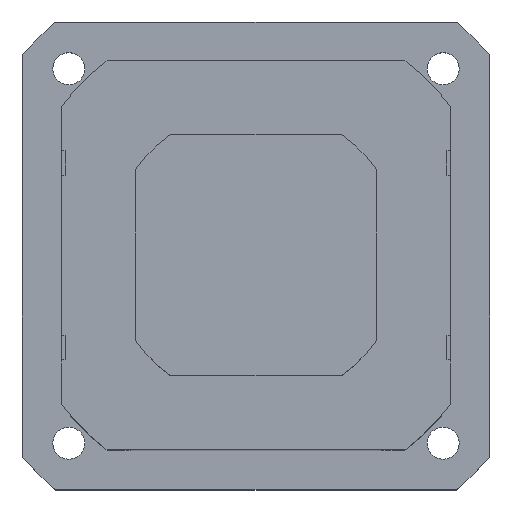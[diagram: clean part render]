
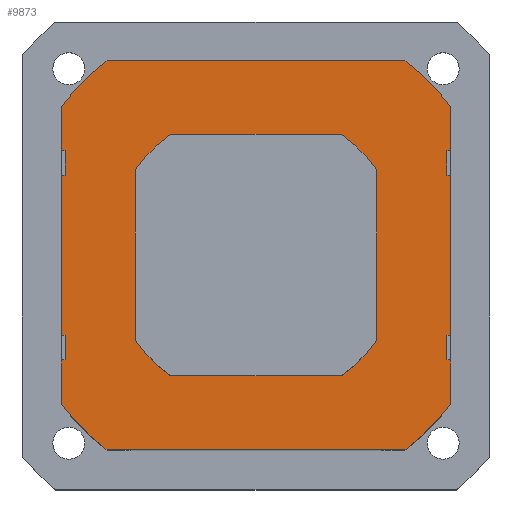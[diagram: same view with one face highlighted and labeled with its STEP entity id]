
A CAD part, top view. The second image highlights one B-rep face of the part: STEP entity #9873.
In plain terms, the highlighted planar face has unit normal (0, 0, 1).
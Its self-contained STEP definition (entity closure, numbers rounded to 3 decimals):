
#2748=CIRCLE('',#10826,99.5);
#2749=CIRCLE('',#10827,99.5);
#2750=CIRCLE('',#10828,99.5);
#2751=CIRCLE('',#10829,99.5);
#3254=VERTEX_POINT('',#14131);
#3255=VERTEX_POINT('',#14132);
#3256=VERTEX_POINT('',#14134);
#3257=VERTEX_POINT('',#14136);
#3258=VERTEX_POINT('',#14138);
#3259=VERTEX_POINT('',#14140);
#3260=VERTEX_POINT('',#14142);
#3261=VERTEX_POINT('',#14144);
#3262=VERTEX_POINT('',#14146);
#3263=VERTEX_POINT('',#14148);
#3264=VERTEX_POINT('',#14150);
#3265=VERTEX_POINT('',#14152);
#3266=VERTEX_POINT('',#14154);
#3267=VERTEX_POINT('',#14156);
#3268=VERTEX_POINT('',#14158);
#3269=VERTEX_POINT('',#14160);
#3270=VERTEX_POINT('',#14162);
#3271=VERTEX_POINT('',#14164);
#3272=VERTEX_POINT('',#14166);
#3273=VERTEX_POINT('',#14168);
#3274=VERTEX_POINT('',#14170);
#3275=VERTEX_POINT('',#14172);
#3276=VERTEX_POINT('',#14174);
#3277=VERTEX_POINT('',#14176);
#4168=LINE('',#14130,#11856);
#4169=LINE('',#14135,#11857);
#4170=LINE('',#14137,#11858);
#4171=LINE('',#14139,#11859);
#4172=LINE('',#14141,#11860);
#4173=LINE('',#14143,#11861);
#4174=LINE('',#14145,#11862);
#4175=LINE('',#14147,#11863);
#4176=LINE('',#14149,#11864);
#4177=LINE('',#14151,#11865);
#4178=LINE('',#14155,#11866);
#4179=LINE('',#14159,#11867);
#4180=LINE('',#14161,#11868);
#4181=LINE('',#14163,#11869);
#4182=LINE('',#14165,#11870);
#4183=LINE('',#14167,#11871);
#4184=LINE('',#14169,#11872);
#4185=LINE('',#14171,#11873);
#4186=LINE('',#14173,#11874);
#4187=LINE('',#14175,#11875);
#5017=EDGE_CURVE('',#3254,#3255,#4168,.T.);
#5018=EDGE_CURVE('',#3256,#3254,#2748,.T.);
#5019=EDGE_CURVE('',#3257,#3256,#4169,.T.);
#5020=EDGE_CURVE('',#3258,#3257,#4170,.T.);
#5021=EDGE_CURVE('',#3259,#3258,#4171,.T.);
#5022=EDGE_CURVE('',#3260,#3259,#4172,.T.);
#5023=EDGE_CURVE('',#3261,#3260,#4173,.T.);
#5024=EDGE_CURVE('',#3262,#3261,#4174,.T.);
#5025=EDGE_CURVE('',#3263,#3262,#4175,.T.);
#5026=EDGE_CURVE('',#3264,#3263,#4176,.T.);
#5027=EDGE_CURVE('',#3265,#3264,#4177,.T.);
#5028=EDGE_CURVE('',#3266,#3265,#2749,.T.);
#5029=EDGE_CURVE('',#3267,#3266,#4178,.T.);
#5030=EDGE_CURVE('',#3268,#3267,#2750,.T.);
#5031=EDGE_CURVE('',#3269,#3268,#4179,.T.);
#5032=EDGE_CURVE('',#3270,#3269,#4180,.T.);
#5033=EDGE_CURVE('',#3271,#3270,#4181,.T.);
#5034=EDGE_CURVE('',#3272,#3271,#4182,.T.);
#5035=EDGE_CURVE('',#3273,#3272,#4183,.T.);
#5036=EDGE_CURVE('',#3274,#3273,#4184,.T.);
#5037=EDGE_CURVE('',#3275,#3274,#4185,.T.);
#5038=EDGE_CURVE('',#3276,#3275,#4186,.T.);
#5039=EDGE_CURVE('',#3277,#3276,#4187,.T.);
#5040=EDGE_CURVE('',#3255,#3277,#2751,.T.);
#6469=ORIENTED_EDGE('',*,*,#5017,.F.);
#6470=ORIENTED_EDGE('',*,*,#5018,.F.);
#6471=ORIENTED_EDGE('',*,*,#5019,.F.);
#6472=ORIENTED_EDGE('',*,*,#5020,.F.);
#6473=ORIENTED_EDGE('',*,*,#5021,.F.);
#6474=ORIENTED_EDGE('',*,*,#5022,.F.);
#6475=ORIENTED_EDGE('',*,*,#5023,.F.);
#6476=ORIENTED_EDGE('',*,*,#5024,.F.);
#6477=ORIENTED_EDGE('',*,*,#5025,.F.);
#6478=ORIENTED_EDGE('',*,*,#5026,.F.);
#6479=ORIENTED_EDGE('',*,*,#5027,.F.);
#6480=ORIENTED_EDGE('',*,*,#5028,.F.);
#6481=ORIENTED_EDGE('',*,*,#5029,.F.);
#6482=ORIENTED_EDGE('',*,*,#5030,.F.);
#6483=ORIENTED_EDGE('',*,*,#5031,.F.);
#6484=ORIENTED_EDGE('',*,*,#5032,.F.);
#6485=ORIENTED_EDGE('',*,*,#5033,.F.);
#6486=ORIENTED_EDGE('',*,*,#5034,.F.);
#6487=ORIENTED_EDGE('',*,*,#5035,.F.);
#6488=ORIENTED_EDGE('',*,*,#5036,.F.);
#6489=ORIENTED_EDGE('',*,*,#5037,.F.);
#6490=ORIENTED_EDGE('',*,*,#5038,.F.);
#6491=ORIENTED_EDGE('',*,*,#5039,.F.);
#6492=ORIENTED_EDGE('',*,*,#5040,.F.);
#8552=EDGE_LOOP('',(#6469,#6470,#6471,#6472,#6473,#6474,#6475,#6476,#6477,
#6478,#6479,#6480,#6481,#6482,#6483,#6484,#6485,#6486,#6487,#6488,#6489,
#6490,#6491,#6492));
#9228=FACE_BOUND('',#8552,.T.);
#9873=ADVANCED_FACE('',(#9228),#12552,.T.);
#10825=AXIS2_PLACEMENT_3D('',#14129,#18176,$);
#10826=AXIS2_PLACEMENT_3D('',#14133,#18178,#18179);
#10827=AXIS2_PLACEMENT_3D('',#14153,#18189,#18190);
#10828=AXIS2_PLACEMENT_3D('',#14157,#18192,#18193);
#10829=AXIS2_PLACEMENT_3D('',#14177,#18203,#18204);
#11856=VECTOR('',#18177,1.);
#11857=VECTOR('',#18180,1.);
#11858=VECTOR('',#18181,1.);
#11859=VECTOR('',#18182,1.);
#11860=VECTOR('',#18183,1.);
#11861=VECTOR('',#18184,1.);
#11862=VECTOR('',#18185,1.);
#11863=VECTOR('',#18186,1.);
#11864=VECTOR('',#18187,1.);
#11865=VECTOR('',#18188,1.);
#11866=VECTOR('',#18191,1.);
#11867=VECTOR('',#18194,1.);
#11868=VECTOR('',#18195,1.);
#11869=VECTOR('',#18196,1.);
#11870=VECTOR('',#18197,1.);
#11871=VECTOR('',#18198,1.);
#11872=VECTOR('',#18199,1.);
#11873=VECTOR('',#18200,1.);
#11874=VECTOR('',#18201,1.);
#11875=VECTOR('',#18202,1.);
#12552=PLANE('',#10825);
#14129=CARTESIAN_POINT('',(0.,0.,10.));
#14130=CARTESIAN_POINT('',(-60.492,-79.,10.));
#14131=CARTESIAN_POINT('',(60.492,-79.,10.));
#14132=CARTESIAN_POINT('',(-60.492,-79.,10.));
#14133=CARTESIAN_POINT('',(0.,0.,10.));
#14134=CARTESIAN_POINT('',(79.,-60.492,10.));
#14135=CARTESIAN_POINT('',(79.,-60.492,10.));
#14136=CARTESIAN_POINT('',(79.,-42.5,10.));
#14137=CARTESIAN_POINT('',(79.,-42.5,10.));
#14138=CARTESIAN_POINT('',(77.5,-42.5,10.));
#14139=CARTESIAN_POINT('',(77.5,-42.5,10.));
#14140=CARTESIAN_POINT('',(77.5,-32.5,10.));
#14141=CARTESIAN_POINT('',(77.5,-32.5,10.));
#14142=CARTESIAN_POINT('',(79.,-32.5,10.));
#14143=CARTESIAN_POINT('',(79.,-32.5,10.));
#14144=CARTESIAN_POINT('',(79.,32.5,10.));
#14145=CARTESIAN_POINT('',(79.,32.5,10.));
#14146=CARTESIAN_POINT('',(77.5,32.5,10.));
#14147=CARTESIAN_POINT('',(77.5,32.5,10.));
#14148=CARTESIAN_POINT('',(77.5,42.5,10.));
#14149=CARTESIAN_POINT('',(77.5,42.5,10.));
#14150=CARTESIAN_POINT('',(79.,42.5,10.));
#14151=CARTESIAN_POINT('',(79.,42.5,10.));
#14152=CARTESIAN_POINT('',(79.,60.492,10.));
#14153=CARTESIAN_POINT('',(0.,0.,10.));
#14154=CARTESIAN_POINT('',(60.492,79.,10.));
#14155=CARTESIAN_POINT('',(60.492,79.,10.));
#14156=CARTESIAN_POINT('',(-60.492,79.,10.));
#14157=CARTESIAN_POINT('',(0.,0.,10.));
#14158=CARTESIAN_POINT('',(-79.,60.492,10.));
#14159=CARTESIAN_POINT('',(-79.,60.492,10.));
#14160=CARTESIAN_POINT('',(-79.,42.5,10.));
#14161=CARTESIAN_POINT('',(-79.,42.5,10.));
#14162=CARTESIAN_POINT('',(-77.5,42.5,10.));
#14163=CARTESIAN_POINT('',(-77.5,42.5,10.));
#14164=CARTESIAN_POINT('',(-77.5,32.5,10.));
#14165=CARTESIAN_POINT('',(-77.5,32.5,10.));
#14166=CARTESIAN_POINT('',(-79.,32.5,10.));
#14167=CARTESIAN_POINT('',(-79.,32.5,10.));
#14168=CARTESIAN_POINT('',(-79.,-32.5,10.));
#14169=CARTESIAN_POINT('',(-79.,-32.5,10.));
#14170=CARTESIAN_POINT('',(-77.5,-32.5,10.));
#14171=CARTESIAN_POINT('',(-77.5,-32.5,10.));
#14172=CARTESIAN_POINT('',(-77.5,-42.5,10.));
#14173=CARTESIAN_POINT('',(-77.5,-42.5,10.));
#14174=CARTESIAN_POINT('',(-79.,-42.5,10.));
#14175=CARTESIAN_POINT('',(-79.,-42.5,10.));
#14176=CARTESIAN_POINT('',(-79.,-60.492,10.));
#14177=CARTESIAN_POINT('',(0.,0.,10.));
#18176=DIRECTION('',(0.,0.,1.));
#18177=DIRECTION('',(-1.,0.,0.));
#18178=DIRECTION('',(0.,0.,-1.));
#18179=DIRECTION('',(99.5,0.,0.));
#18180=DIRECTION('',(0.,-1.,0.));
#18181=DIRECTION('',(1.,0.,0.));
#18182=DIRECTION('',(0.,-1.,0.));
#18183=DIRECTION('',(-1.,0.,0.));
#18184=DIRECTION('',(0.,-1.,0.));
#18185=DIRECTION('',(1.,0.,0.));
#18186=DIRECTION('',(0.,-1.,0.));
#18187=DIRECTION('',(-1.,0.,0.));
#18188=DIRECTION('',(0.,-1.,0.));
#18189=DIRECTION('',(0.,0.,-1.));
#18190=DIRECTION('',(99.5,0.,0.));
#18191=DIRECTION('',(1.,0.,0.));
#18192=DIRECTION('',(0.,0.,-1.));
#18193=DIRECTION('',(99.5,0.,0.));
#18194=DIRECTION('',(0.,1.,0.));
#18195=DIRECTION('',(-1.,0.,0.));
#18196=DIRECTION('',(0.,1.,0.));
#18197=DIRECTION('',(1.,0.,0.));
#18198=DIRECTION('',(0.,1.,0.));
#18199=DIRECTION('',(-1.,0.,0.));
#18200=DIRECTION('',(0.,1.,0.));
#18201=DIRECTION('',(1.,0.,0.));
#18202=DIRECTION('',(0.,1.,0.));
#18203=DIRECTION('',(0.,0.,-1.));
#18204=DIRECTION('',(99.5,0.,0.));
